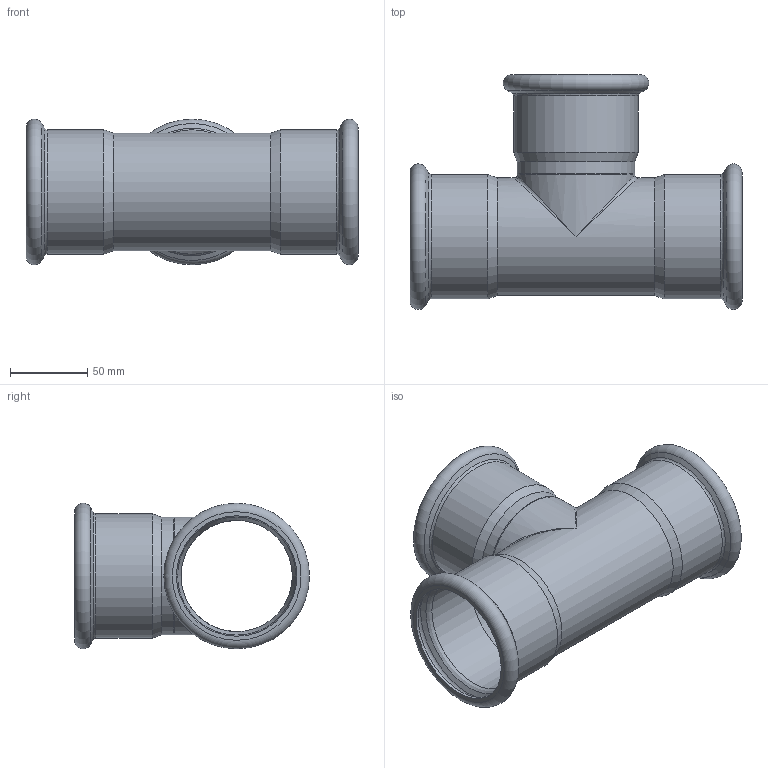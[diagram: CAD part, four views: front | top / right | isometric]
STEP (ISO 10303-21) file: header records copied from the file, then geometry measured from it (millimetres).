
FILE_DESCRIPTION((''),'2;1');
FILE_NAME('G:\Nirosan-Schmiedefeld\Technics\CAD\Bauteile VA\076\6913076(2).stp','2010-03-10T09:02:08',('herberg'),(''),'Autodesk Inventor 2009','Autodesk Inventor 2009','');
FILE_SCHEMA(('AUTOMOTIVE_DESIGN { 1 0 10303 214 1 1 1 1 }'));
Length unit declared in the file: millimetre
Products named in the file (3): 6913076(2); LM_6913076(1); HM_6924376(1)
Assembly tree (2 placements, depth 2):
  6913076(2)
    LM_6913076(1)
    HM_6924376(1)
Bounding box: 215 x 152.15 x 94.3 mm (x, y, z)
Volume: 146109.7 mm3; surface area: 148524.1 mm2
Topology: 2 solids, 2 shells, 51 faces, 109 edges, 57 vertices
Faces by surface type: cylinder 15, cone 12, bspline 10, plane 8, torus 6
Full cylindrical faces by diameter (mm): 72.1 x3, 76.1 x3, 76.6 x3, 78 x3, 80.6 x3
Entity records: 2176 total; most frequent: CARTESIAN_POINT 1240, DIRECTION 200, ORIENTED_EDGE 108, AXIS2_PLACEMENT_3D 100, EDGE_LOOP 100, EDGE_CURVE 54, FACE_OUTER_BOUND 51, ADVANCED_FACE 51
